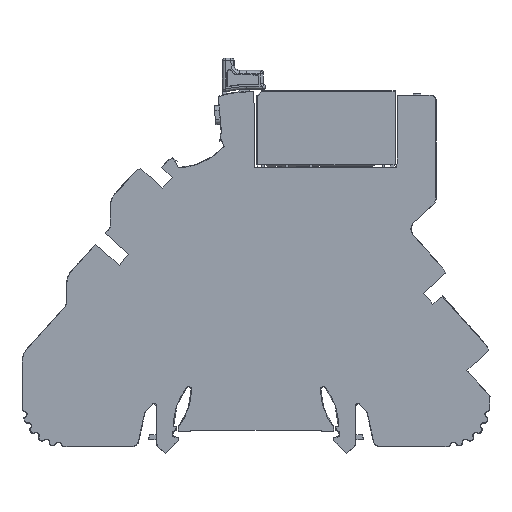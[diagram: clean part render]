
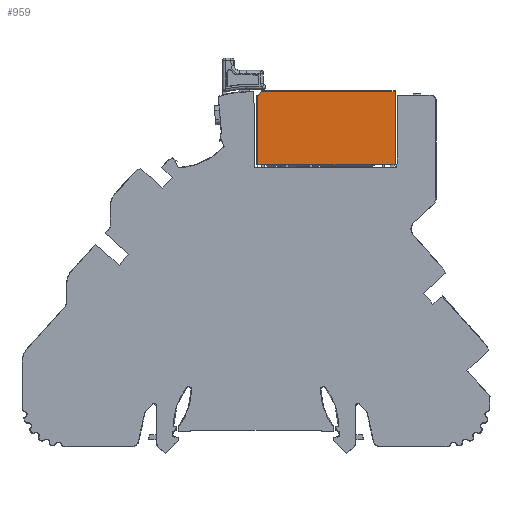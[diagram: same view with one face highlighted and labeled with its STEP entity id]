
A CAD part, left-side view. The second image highlights one B-rep face of the part: STEP entity #959.
In plain terms, the highlighted planar face has unit normal (-1, 0, 0).
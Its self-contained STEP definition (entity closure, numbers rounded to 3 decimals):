
#342 = VERTEX_POINT ( 'NONE', #19652 ) ;
#552 = EDGE_CURVE ( 'NONE', #36118, #4042, #5739, .T. ) ;
#639 = CARTESIAN_POINT ( 'NONE',  ( 0.6, 48.378, 60.177 ) ) ;
#959 = ADVANCED_FACE ( 'NONE', ( #22471 ), #39835, .T. ) ;
#1095 = VECTOR ( 'NONE', #13640, 1000. ) ;
#1169 = CARTESIAN_POINT ( 'NONE',  ( 0.6, 19.778, 75.377 ) ) ;
#2797 = CARTESIAN_POINT ( 'NONE',  ( 0.6, 48.578, 60.177 ) ) ;
#2814 = VERTEX_POINT ( 'NONE', #18351 ) ;
#3740 = LINE ( 'NONE', #8031, #16282 ) ;
#4042 = VERTEX_POINT ( 'NONE', #1169 ) ;
#4272 = LINE ( 'NONE', #29780, #1095 ) ;
#4310 = VECTOR ( 'NONE', #5557, 1000. ) ;
#5110 = VERTEX_POINT ( 'NONE', #36971 ) ;
#5557 = DIRECTION ( 'NONE',  ( 0., -1., 0. ) ) ;
#5739 = LINE ( 'NONE', #28704, #12450 ) ;
#6180 = EDGE_LOOP ( 'NONE', ( #32392, #32533, #31674, #35081, #20581, #40575, #22629 ) ) ;
#7908 = LINE ( 'NONE', #639, #27258 ) ;
#8031 = CARTESIAN_POINT ( 'NONE',  ( 0.6, 55.637, 67.235 ) ) ;
#8765 = CARTESIAN_POINT ( 'NONE',  ( 0.6, 47.495, 75.377 ) ) ;
#9270 = EDGE_CURVE ( 'NONE', #2814, #5110, #4272, .T. ) ;
#11959 = AXIS2_PLACEMENT_3D ( 'NONE', #26573, #15340, #39638 ) ;
#12381 = DIRECTION ( 'NONE',  ( 0., -1., 0. ) ) ;
#12450 = VECTOR ( 'NONE', #28308, 1000. ) ;
#13640 = DIRECTION ( 'NONE',  ( 0., -1., 0. ) ) ;
#15340 = DIRECTION ( 'NONE',  ( -1., 0., 0. ) ) ;
#15732 = CARTESIAN_POINT ( 'NONE',  ( 0.6, 48.578, 60.177 ) ) ;
#16071 = VECTOR ( 'NONE', #19580, 1000. ) ;
#16282 = VECTOR ( 'NONE', #30210, 1000. ) ;
#18351 = CARTESIAN_POINT ( 'NONE',  ( 0.6, 48.378, 60.177 ) ) ;
#19018 = LINE ( 'NONE', #15732, #4310 ) ;
#19580 = DIRECTION ( 'NONE',  ( 0., 1., 0. ) ) ;
#19652 = CARTESIAN_POINT ( 'NONE',  ( 0.6, 19.972, 60.177 ) ) ;
#20204 = LINE ( 'NONE', #32015, #16071 ) ;
#20581 = ORIENTED_EDGE ( 'NONE', *, *, #34550, .T. ) ;
#21902 = LINE ( 'NONE', #2797, #32811 ) ;
#22471 = FACE_OUTER_BOUND ( 'NONE', #6180, .T. ) ;
#22629 = ORIENTED_EDGE ( 'NONE', *, *, #552, .T. ) ;
#24036 = CARTESIAN_POINT ( 'NONE',  ( 0.6, 19.778, 60.177 ) ) ;
#26573 = CARTESIAN_POINT ( 'NONE',  ( 0.6, 48.578, 60.177 ) ) ;
#27258 = VECTOR ( 'NONE', #35687, 1000. ) ;
#27589 = EDGE_CURVE ( 'NONE', #38410, #2814, #7908, .T. ) ;
#28000 = EDGE_CURVE ( 'NONE', #4042, #32603, #20204, .T. ) ;
#28308 = DIRECTION ( 'NONE',  ( 0., 0., 1. ) ) ;
#28704 = CARTESIAN_POINT ( 'NONE',  ( 0.6, 19.778, 60.177 ) ) ;
#29780 = CARTESIAN_POINT ( 'NONE',  ( 0.6, 48.578, 60.177 ) ) ;
#30210 = DIRECTION ( 'NONE',  ( 0., 0.707, -0.707 ) ) ;
#31674 = ORIENTED_EDGE ( 'NONE', *, *, #27589, .T. ) ;
#32015 = CARTESIAN_POINT ( 'NONE',  ( 0.6, 47.578, 75.377 ) ) ;
#32392 = ORIENTED_EDGE ( 'NONE', *, *, #28000, .T. ) ;
#32533 = ORIENTED_EDGE ( 'NONE', *, *, #36483, .T. ) ;
#32603 = VERTEX_POINT ( 'NONE', #8765 ) ;
#32811 = VECTOR ( 'NONE', #12381, 1000. ) ;
#34259 = EDGE_CURVE ( 'NONE', #342, #36118, #19018, .T. ) ;
#34550 = EDGE_CURVE ( 'NONE', #5110, #342, #21902, .T. ) ;
#35081 = ORIENTED_EDGE ( 'NONE', *, *, #9270, .T. ) ;
#35687 = DIRECTION ( 'NONE',  ( 0., 0., -1. ) ) ;
#36118 = VERTEX_POINT ( 'NONE', #24036 ) ;
#36483 = EDGE_CURVE ( 'NONE', #32603, #38410, #3740, .T. ) ;
#36971 = CARTESIAN_POINT ( 'NONE',  ( 0.6, 20.764, 60.177 ) ) ;
#38410 = VERTEX_POINT ( 'NONE', #40275 ) ;
#39638 = DIRECTION ( 'NONE',  ( 0., 0., -1. ) ) ;
#39835 = PLANE ( 'NONE',  #11959 ) ;
#40275 = CARTESIAN_POINT ( 'NONE',  ( 0.6, 48.378, 74.494 ) ) ;
#40575 = ORIENTED_EDGE ( 'NONE', *, *, #34259, .T. ) ;
